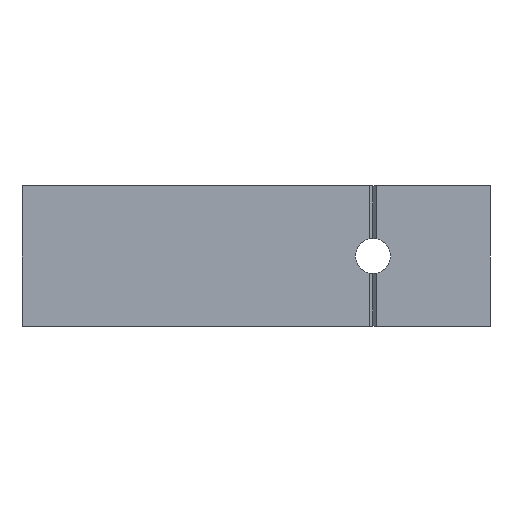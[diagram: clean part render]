
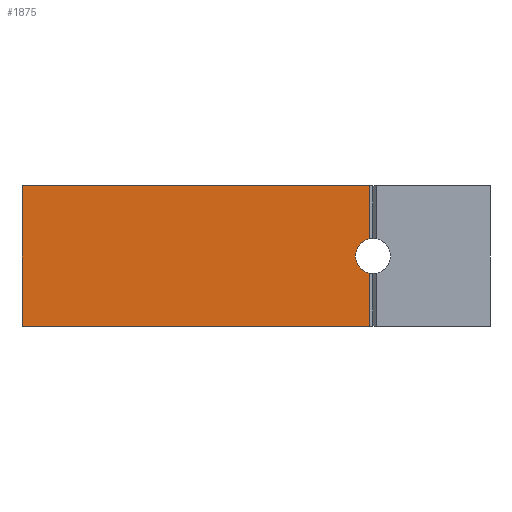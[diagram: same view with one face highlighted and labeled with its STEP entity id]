
A CAD part, front view. The second image highlights one B-rep face of the part: STEP entity #1875.
In plain terms, the highlighted planar face has unit normal (0, -1, 0).
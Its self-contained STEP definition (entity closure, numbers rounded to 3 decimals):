
#12 = CARTESIAN_POINT ( 'NONE',  ( -30., -30., -32. ) ) ;
#32 = DIRECTION ( 'NONE',  ( 1., 0., 0. ) ) ;
#70 = ORIENTED_EDGE ( 'NONE', *, *, #821, .T. ) ;
#97 = CARTESIAN_POINT ( 'NONE',  ( 14.5, -30., -38.806 ) ) ;
#98 = ORIENTED_EDGE ( 'NONE', *, *, #1964, .T. ) ;
#125 = CARTESIAN_POINT ( 'NONE',  ( 14.5, -30., -50. ) ) ;
#154 = VERTEX_POINT ( 'NONE', #12 ) ;
#181 = EDGE_LOOP ( 'NONE', ( #905, #98, #1322, #1439, #806, #70 ) ) ;
#245 = VERTEX_POINT ( 'NONE', #1321 ) ;
#283 = EDGE_CURVE ( 'NONE', #245, #1701, #360, .T. ) ;
#342 = VECTOR ( 'NONE', #1323, 1000. ) ;
#360 = LINE ( 'NONE', #1348, #421 ) ;
#383 = LINE ( 'NONE', #1178, #521 ) ;
#416 = DIRECTION ( 'NONE',  ( -1., 0., 0. ) ) ;
#421 = VECTOR ( 'NONE', #32, 1000. ) ;
#435 = LINE ( 'NONE', #1863, #1366 ) ;
#465 = DIRECTION ( 'NONE',  ( 0., 0., -1. ) ) ;
#519 = DIRECTION ( 'NONE',  ( 0., 0., -1. ) ) ;
#521 = VECTOR ( 'NONE', #519, 1000. ) ;
#523 = CIRCLE ( 'NONE', #1302, 2.25 ) ;
#630 = VECTOR ( 'NONE', #416, 1000. ) ;
#687 = LINE ( 'NONE', #1608, #342 ) ;
#709 = CARTESIAN_POINT ( 'NONE',  ( 30., -30., -32. ) ) ;
#759 = CARTESIAN_POINT ( 'NONE',  ( 15., -30., -41. ) ) ;
#806 = ORIENTED_EDGE ( 'NONE', *, *, #283, .T. ) ;
#821 = EDGE_CURVE ( 'NONE', #1701, #1296, #435, .T. ) ;
#867 = VERTEX_POINT ( 'NONE', #97 ) ;
#877 = VERTEX_POINT ( 'NONE', #1388 ) ;
#905 = ORIENTED_EDGE ( 'NONE', *, *, #1319, .F. ) ;
#994 = CARTESIAN_POINT ( 'NONE',  ( 30., -30., 0. ) ) ;
#1008 = DIRECTION ( 'NONE',  ( 0., 0., -1. ) ) ;
#1032 = EDGE_CURVE ( 'NONE', #154, #245, #383, .T. ) ;
#1153 = PLANE ( 'NONE',  #2020 ) ;
#1178 = CARTESIAN_POINT ( 'NONE',  ( -30., -30., 0. ) ) ;
#1277 = FACE_OUTER_BOUND ( 'NONE', #181, .T. ) ;
#1296 = VERTEX_POINT ( 'NONE', #2039 ) ;
#1302 = AXIS2_PLACEMENT_3D ( 'NONE', #759, #1729, #465 ) ;
#1319 = EDGE_CURVE ( 'NONE', #867, #1296, #523, .T. ) ;
#1321 = CARTESIAN_POINT ( 'NONE',  ( -30., -30., -50. ) ) ;
#1322 = ORIENTED_EDGE ( 'NONE', *, *, #2081, .T. ) ;
#1323 = DIRECTION ( 'NONE',  ( 0., 0., 1. ) ) ;
#1348 = CARTESIAN_POINT ( 'NONE',  ( 0., -30., -50. ) ) ;
#1365 = DIRECTION ( 'NONE',  ( 0., 0., 1. ) ) ;
#1366 = VECTOR ( 'NONE', #1365, 1000. ) ;
#1388 = CARTESIAN_POINT ( 'NONE',  ( 14.5, -30., -32. ) ) ;
#1439 = ORIENTED_EDGE ( 'NONE', *, *, #1032, .T. ) ;
#1608 = CARTESIAN_POINT ( 'NONE',  ( 14.5, -30., 0. ) ) ;
#1615 = DIRECTION ( 'NONE',  ( 0., -1., 0. ) ) ;
#1701 = VERTEX_POINT ( 'NONE', #125 ) ;
#1729 = DIRECTION ( 'NONE',  ( 0., -1., 0. ) ) ;
#1846 = LINE ( 'NONE', #709, #630 ) ;
#1863 = CARTESIAN_POINT ( 'NONE',  ( 14.5, -30., 0. ) ) ;
#1875 = ADVANCED_FACE ( 'NONE', ( #1277 ), #1153, .T. ) ;
#1964 = EDGE_CURVE ( 'NONE', #867, #877, #687, .T. ) ;
#2020 = AXIS2_PLACEMENT_3D ( 'NONE', #994, #1615, #1008 ) ;
#2039 = CARTESIAN_POINT ( 'NONE',  ( 14.5, -30., -43.194 ) ) ;
#2081 = EDGE_CURVE ( 'NONE', #877, #154, #1846, .T. ) ;
